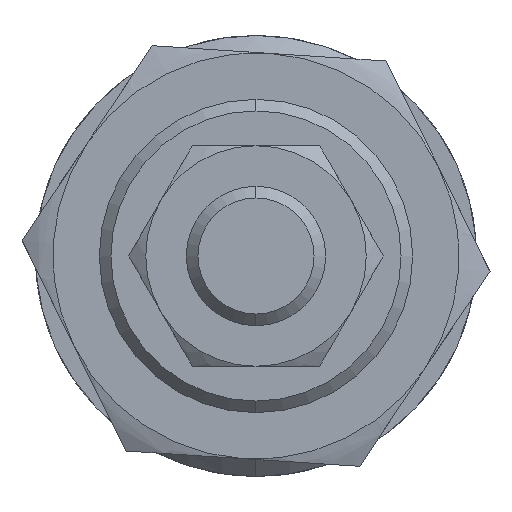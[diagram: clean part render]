
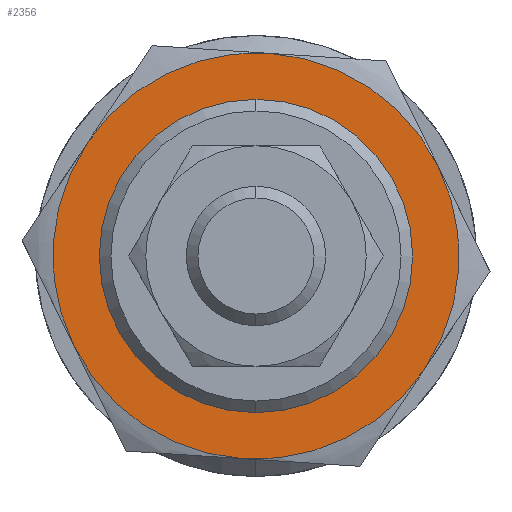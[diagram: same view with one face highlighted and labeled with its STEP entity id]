
A CAD part, left-side view. The second image highlights one B-rep face of the part: STEP entity #2356.
In plain terms, the highlighted planar face has unit normal (-1, 0, 0) as drawn and (0, 0, -1) by its records, which use the part's own axes.
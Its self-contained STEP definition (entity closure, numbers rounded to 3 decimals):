
#12 = CARTESIAN_POINT ( 'NONE',  ( 0., 0., -5. ) ) ;
#33 = ORIENTED_EDGE ( 'NONE', *, *, #127, .F. ) ;
#94 = VERTEX_POINT ( 'NONE', #795 ) ;
#127 = EDGE_CURVE ( 'NONE', #491, #1481, #1089, .T. ) ;
#145 = VERTEX_POINT ( 'NONE', #567 ) ;
#199 = EDGE_LOOP ( 'NONE', ( #3181, #3402 ) ) ;
#207 = CARTESIAN_POINT ( 'NONE',  ( 0., 0., -5. ) ) ;
#270 = CARTESIAN_POINT ( 'NONE',  ( 0., 0., -5. ) ) ;
#293 = CARTESIAN_POINT ( 'NONE',  ( 17.5, 0., -5. ) ) ;
#458 = CIRCLE ( 'NONE', #1173, 17.5 ) ;
#491 = VERTEX_POINT ( 'NONE', #2572 ) ;
#567 = CARTESIAN_POINT ( 'NONE',  ( 12.5, 0., -5. ) ) ;
#574 = AXIS2_PLACEMENT_3D ( 'NONE', #3321, #1912, #2401 ) ;
#598 = VERTEX_POINT ( 'NONE', #748 ) ;
#653 = EDGE_CURVE ( 'NONE', #94, #2057, #2813, .T. ) ;
#748 = CARTESIAN_POINT ( 'NONE',  ( -8.75, -15.155, -5. ) ) ;
#759 = DIRECTION ( 'NONE',  ( 1., 0., 0. ) ) ;
#795 = CARTESIAN_POINT ( 'NONE',  ( -8.75, 15.155, -5. ) ) ;
#903 = PLANE ( 'NONE',  #1338 ) ;
#929 = CARTESIAN_POINT ( 'NONE',  ( 0., 0., -5. ) ) ;
#1008 = CARTESIAN_POINT ( 'NONE',  ( 0., 0., -5. ) ) ;
#1009 = DIRECTION ( 'NONE',  ( 0., 0., 1. ) ) ;
#1050 = CARTESIAN_POINT ( 'NONE',  ( 0., 0., -5. ) ) ;
#1089 = CIRCLE ( 'NONE', #2115, 17.5 ) ;
#1093 = EDGE_CURVE ( 'NONE', #1481, #2074, #1439, .T. ) ;
#1123 = DIRECTION ( 'NONE',  ( 0., 0., 1. ) ) ;
#1140 = AXIS2_PLACEMENT_3D ( 'NONE', #929, #1402, #759 ) ;
#1172 = CARTESIAN_POINT ( 'NONE',  ( -17.5, 0., -5. ) ) ;
#1173 = AXIS2_PLACEMENT_3D ( 'NONE', #3313, #3200, #1737 ) ;
#1221 = AXIS2_PLACEMENT_3D ( 'NONE', #207, #1123, #3065 ) ;
#1283 = CARTESIAN_POINT ( 'NONE',  ( -12.5, 0., -5. ) ) ;
#1311 = EDGE_CURVE ( 'NONE', #2057, #598, #3413, .T. ) ;
#1338 = AXIS2_PLACEMENT_3D ( 'NONE', #270, #1009, #2812 ) ;
#1368 = DIRECTION ( 'NONE',  ( 1., 0., 0. ) ) ;
#1402 = DIRECTION ( 'NONE',  ( 0., 0., 1. ) ) ;
#1439 = CIRCLE ( 'NONE', #1221, 17.5 ) ;
#1481 = VERTEX_POINT ( 'NONE', #293 ) ;
#1558 = DIRECTION ( 'NONE',  ( 0., 0., 1. ) ) ;
#1562 = DIRECTION ( 'NONE',  ( 1., 0., 0. ) ) ;
#1655 = EDGE_LOOP ( 'NONE', ( #3183, #33, #2253, #1933, #1780, #2593 ) ) ;
#1718 = DIRECTION ( 'NONE',  ( 0., 0., 1. ) ) ;
#1737 = DIRECTION ( 'NONE',  ( 1., 0., 0. ) ) ;
#1780 = ORIENTED_EDGE ( 'NONE', *, *, #653, .F. ) ;
#1912 = DIRECTION ( 'NONE',  ( 0., 0., 1. ) ) ;
#1933 = ORIENTED_EDGE ( 'NONE', *, *, #1311, .F. ) ;
#1992 = VERTEX_POINT ( 'NONE', #1283 ) ;
#2005 = CARTESIAN_POINT ( 'NONE',  ( 0., 0., -5. ) ) ;
#2013 = EDGE_CURVE ( 'NONE', #2074, #94, #2043, .T. ) ;
#2043 = CIRCLE ( 'NONE', #1140, 17.5 ) ;
#2057 = VERTEX_POINT ( 'NONE', #1172 ) ;
#2074 = VERTEX_POINT ( 'NONE', #3346 ) ;
#2115 = AXIS2_PLACEMENT_3D ( 'NONE', #12, #2815, #2441 ) ;
#2222 = DIRECTION ( 'NONE',  ( 0., 0., 1. ) ) ;
#2253 = ORIENTED_EDGE ( 'NONE', *, *, #2615, .F. ) ;
#2328 = DIRECTION ( 'NONE',  ( 1., 0., 0. ) ) ;
#2356 = ADVANCED_FACE ( 'NONE', ( #2872, #3381 ), #903, .F. ) ;
#2401 = DIRECTION ( 'NONE',  ( 1., 0., 0. ) ) ;
#2441 = DIRECTION ( 'NONE',  ( 1., 0., 0. ) ) ;
#2490 = CIRCLE ( 'NONE', #2870, 12.5 ) ;
#2572 = CARTESIAN_POINT ( 'NONE',  ( 8.75, -15.155, -5. ) ) ;
#2593 = ORIENTED_EDGE ( 'NONE', *, *, #2013, .F. ) ;
#2615 = EDGE_CURVE ( 'NONE', #598, #491, #458, .T. ) ;
#2773 = EDGE_CURVE ( 'NONE', #1992, #145, #3079, .T. ) ;
#2800 = AXIS2_PLACEMENT_3D ( 'NONE', #1050, #1718, #1368 ) ;
#2812 = DIRECTION ( 'NONE',  ( 1., 0., 0. ) ) ;
#2813 = CIRCLE ( 'NONE', #574, 17.5 ) ;
#2815 = DIRECTION ( 'NONE',  ( 0., 0., 1. ) ) ;
#2870 = AXIS2_PLACEMENT_3D ( 'NONE', #2005, #2222, #2328 ) ;
#2872 = FACE_BOUND ( 'NONE', #199, .T. ) ;
#3065 = DIRECTION ( 'NONE',  ( 1., 0., 0. ) ) ;
#3079 = CIRCLE ( 'NONE', #3443, 12.5 ) ;
#3181 = ORIENTED_EDGE ( 'NONE', *, *, #3391, .T. ) ;
#3183 = ORIENTED_EDGE ( 'NONE', *, *, #1093, .F. ) ;
#3200 = DIRECTION ( 'NONE',  ( 0., 0., 1. ) ) ;
#3313 = CARTESIAN_POINT ( 'NONE',  ( 0., 0., -5. ) ) ;
#3321 = CARTESIAN_POINT ( 'NONE',  ( 0., 0., -5. ) ) ;
#3346 = CARTESIAN_POINT ( 'NONE',  ( 8.75, 15.155, -5. ) ) ;
#3381 = FACE_OUTER_BOUND ( 'NONE', #1655, .T. ) ;
#3391 = EDGE_CURVE ( 'NONE', #145, #1992, #2490, .T. ) ;
#3402 = ORIENTED_EDGE ( 'NONE', *, *, #2773, .T. ) ;
#3413 = CIRCLE ( 'NONE', #2800, 17.5 ) ;
#3443 = AXIS2_PLACEMENT_3D ( 'NONE', #1008, #1558, #1562 ) ;
